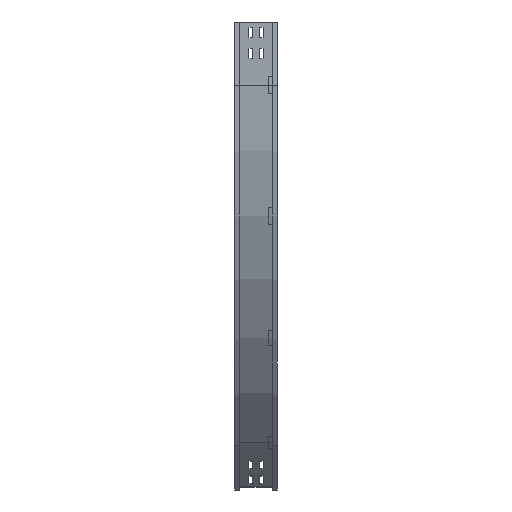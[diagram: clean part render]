
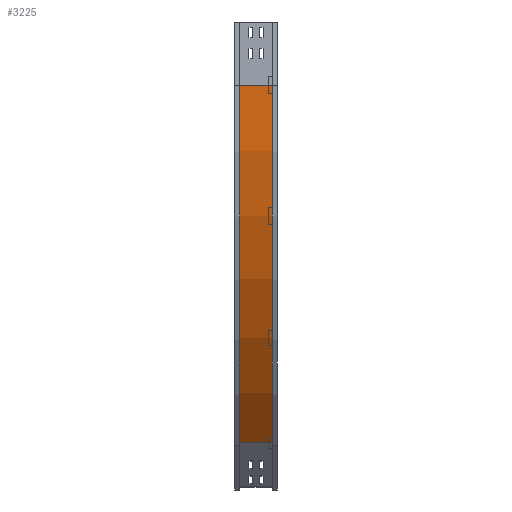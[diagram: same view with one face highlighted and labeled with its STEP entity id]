
A CAD part, left-side view. The second image highlights one B-rep face of the part: STEP entity #3225.
In plain terms, the highlighted cylindrical face has radius 1200 mm (diameter 2400 mm), a partial arc.
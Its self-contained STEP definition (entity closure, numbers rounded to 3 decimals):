
#72 = VECTOR ( 'NONE', #2363, 1000. ) ;
#141 = EDGE_CURVE ( 'NONE', #2478, #3795, #2141, .T. ) ;
#160 = CIRCLE ( 'NONE', #3350, 1200. ) ;
#228 = CARTESIAN_POINT ( 'NONE',  ( 1209., 0., -150. ) ) ;
#328 = EDGE_LOOP ( 'NONE', ( #1203, #3447, #4481, #1622 ) ) ;
#407 = DIRECTION ( 'NONE',  ( 0., -1., 0. ) ) ;
#627 = CYLINDRICAL_SURFACE ( 'NONE', #2486, 1200. ) ;
#1203 = ORIENTED_EDGE ( 'NONE', *, *, #2481, .F. ) ;
#1330 = DIRECTION ( 'NONE',  ( 0., -1., 0. ) ) ;
#1354 = FACE_OUTER_BOUND ( 'NONE', #328, .T. ) ;
#1366 = DIRECTION ( 'NONE',  ( 0., -1., 0. ) ) ;
#1492 = CARTESIAN_POINT ( 'NONE',  ( 360.472, 12., -998.528 ) ) ;
#1622 = ORIENTED_EDGE ( 'NONE', *, *, #141, .T. ) ;
#1699 = CARTESIAN_POINT ( 'NONE',  ( 1209., 88., -150. ) ) ;
#1954 = CARTESIAN_POINT ( 'NONE',  ( 9., 12., -150. ) ) ;
#2141 = LINE ( 'NONE', #1492, #3532 ) ;
#2190 = VERTEX_POINT ( 'NONE', #2824 ) ;
#2198 = VERTEX_POINT ( 'NONE', #3843 ) ;
#2363 = DIRECTION ( 'NONE',  ( 0., -1., 0. ) ) ;
#2478 = VERTEX_POINT ( 'NONE', #4024 ) ;
#2481 = EDGE_CURVE ( 'NONE', #2198, #3795, #3333, .T. ) ;
#2486 = AXIS2_PLACEMENT_3D ( 'NONE', #228, #4117, #2663 ) ;
#2663 = DIRECTION ( 'NONE',  ( 0., 0., -1. ) ) ;
#2824 = CARTESIAN_POINT ( 'NONE',  ( 9., 88., -150. ) ) ;
#3014 = CARTESIAN_POINT ( 'NONE',  ( 1209., 12., -150. ) ) ;
#3042 = LINE ( 'NONE', #1954, #72 ) ;
#3225 = ADVANCED_FACE ( 'NONE', ( #1354 ), #627, .T. ) ;
#3278 = EDGE_CURVE ( 'NONE', #2190, #2198, #3042, .T. ) ;
#3289 = DIRECTION ( 'NONE',  ( -1., 0., 0. ) ) ;
#3333 = CIRCLE ( 'NONE', #3991, 1200. ) ;
#3350 = AXIS2_PLACEMENT_3D ( 'NONE', #1699, #1366, #4128 ) ;
#3447 = ORIENTED_EDGE ( 'NONE', *, *, #3278, .F. ) ;
#3532 = VECTOR ( 'NONE', #407, 1000. ) ;
#3795 = VERTEX_POINT ( 'NONE', #4180 ) ;
#3843 = CARTESIAN_POINT ( 'NONE',  ( 9., 12., -150. ) ) ;
#3991 = AXIS2_PLACEMENT_3D ( 'NONE', #3014, #1330, #3289 ) ;
#4024 = CARTESIAN_POINT ( 'NONE',  ( 360.472, 88., -998.528 ) ) ;
#4117 = DIRECTION ( 'NONE',  ( 0., -1., 0. ) ) ;
#4128 = DIRECTION ( 'NONE',  ( -1., 0., 0. ) ) ;
#4180 = CARTESIAN_POINT ( 'NONE',  ( 360.472, 12., -998.528 ) ) ;
#4297 = EDGE_CURVE ( 'NONE', #2190, #2478, #160, .T. ) ;
#4481 = ORIENTED_EDGE ( 'NONE', *, *, #4297, .T. ) ;
